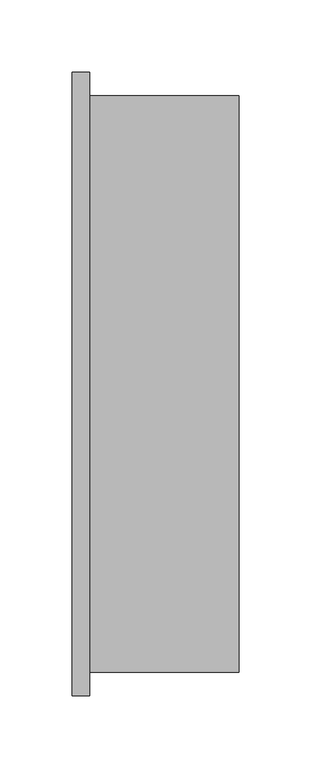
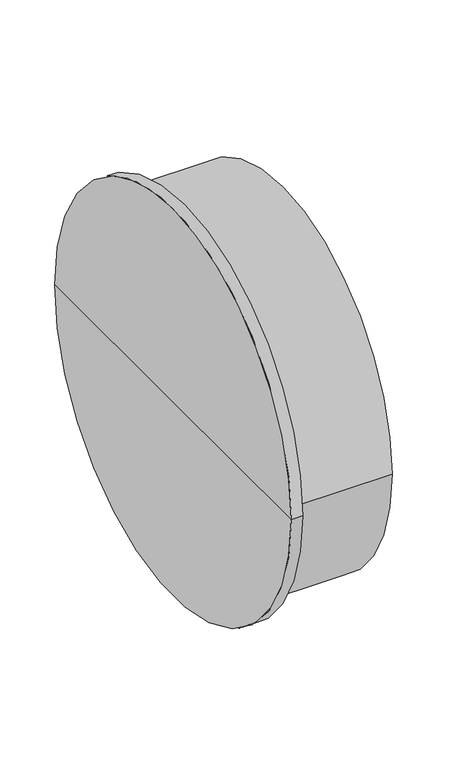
"""IFC4 building model written with IfcOpenShell, lengths in millimetres: pipe fitting geometry, OSMA_KG2000_PPKGM : Hrdlová zátka."""

from ifc_helpers import new_model, si_unit, frame, origin, place, context, project, spatial, circle_curve, source, transform, mapped, element, save
from ifc_brep_helpers import plane_surface, cylinder_surface, advanced_brep


def pipe_fitting_5f3586b9(model_context):
    return source(origin(), model_context, "Body", "AdvancedBrep", [
        advanced_brep(
        [(116.0, -200.0, 0.0), (116.0, 200.0, 0.0), (116.0, 0.0, 0.0), (12.3, -200.0, 0.0), (12.3, 200.0, 0.0), (12.3, -216.3, 0.0), (12.3, 216.3, 0.0), (0.0, -216.3, 0.0), (0.0, 216.3, 0.0), (0.0, 0.0, 0.0)],
        [
            (0, 1, circle_curve(frame((116.0, 0.0, 0.0), z_axis=(1.0, 0.0, 0.0), x_axis=(0.0, 1.0, 0.0)), 200.0)),
            (1, 2),
            (2, 0),
            (1, 0, circle_curve(frame((116.0, 0.0, 0.0), z_axis=(1.0, 0.0, 0.0), x_axis=(0.0, 1.0, 0.0)), 200.0)),
            (3, 4, circle_curve(frame((12.3, 0.0, 0.0), z_axis=(1.0, 0.0, 0.0), x_axis=(0.0, 1.0, 0.0)), 200.0)),
            (4, 1),
            (0, 3),
            (4, 3, circle_curve(frame((12.3, 0.0, 0.0), z_axis=(1.0, 0.0, 0.0), x_axis=(0.0, 1.0, 0.0)), 200.0)),
            (5, 6, circle_curve(frame((12.3, 0.0, 0.0), z_axis=(1.0, 0.0, 0.0), x_axis=(0.0, 1.0, 0.0)), 216.3)),
            (6, 4),
            (3, 5),
            (6, 5, circle_curve(frame((12.3, 0.0, 0.0), z_axis=(1.0, 0.0, 0.0), x_axis=(0.0, 1.0, 0.0)), 216.3)),
            (7, 8, circle_curve(frame((0.0, 0.0, 0.0), z_axis=(1.0, 0.0, 0.0), x_axis=(0.0, 1.0, 0.0)), 216.3)),
            (8, 6),
            (5, 7),
            (8, 7, circle_curve(frame((0.0, 0.0, 0.0), z_axis=(1.0, 0.0, 0.0), x_axis=(0.0, 1.0, 0.0)), 216.3)),
            (9, 8),
            (7, 9),
        ],
        [
            plane_surface(frame((116.0, 0.0, 0.0), z_axis=(1.0, 0.0, 0.0), x_axis=(0.0, 1.0, 0.0))),
            cylinder_surface(frame((2061.0, 0.0, 0.0), z_axis=(-1.0, 0.0, 0.0), x_axis=(0.0, 1.0, 0.0)), 200.0),
            plane_surface(frame((12.3, 0.0, 0.0), z_axis=(1.0, 0.0, 0.0), x_axis=(0.0, 1.0, 0.0))),
            cylinder_surface(frame((2061.0, 0.0, 0.0), z_axis=(-1.0, 0.0, 0.0), x_axis=(0.0, 1.0, 0.0)), 216.3),
            plane_surface(frame((0.0, 0.0, 0.0), z_axis=(-1.0, 0.0, 0.0), x_axis=(0.0, 1.0, 0.0))),
        ],
        [
            (0, [[1, 2, 3]]),
            (0, [[4, -3, -2]]),
            (1, [[5, 6, -1, 7]]),
            (1, [[8, -7, -4, -6]]),
            (2, [[9, 10, -5, 11]]),
            (2, [[12, -11, -8, -10]]),
            (3, [[13, 14, -9, 15]]),
            (3, [[16, -15, -12, -14]]),
            (4, [[17, -13, 18]]),
            (4, [[-18, -16, -17]]),
        ],
    ),
    ])


if __name__ == "__main__":
    model = new_model("IFC4")
    model_context = context("Model", 3, world=origin())
    ifc_project = project(units=[si_unit("LENGTHUNIT", "METRE", prefix="MILLI")], contexts=[model_context])
    site = spatial("IfcSite", under=ifc_project)
    building = spatial("IfcBuilding", under=site)
    placement = place(None, origin())
    pipe_fitting_shape = pipe_fitting_5f3586b9(model_context)
    element("IfcPipeFitting", 1, ObjectType="OSMA_KG2000_PPKGM : Hrdlová zátka", at=placement, inside=building, context=model_context, shape_type="MappedRepresentation", body=[
        mapped(pipe_fitting_shape, transform((0.0, 0.0, 0.0), x_axis=(1.0, 0.0, 0.0), y_axis=(0.0, 1.0, 0.0), z_axis=(0.0, 0.0, 1.0))),
    ])
    save(model, "model.ifc")
